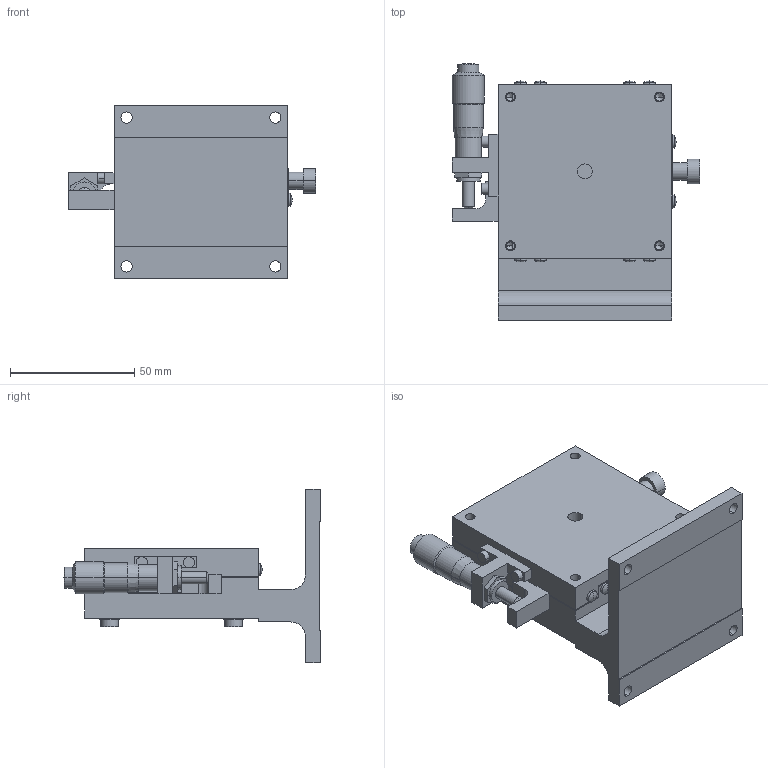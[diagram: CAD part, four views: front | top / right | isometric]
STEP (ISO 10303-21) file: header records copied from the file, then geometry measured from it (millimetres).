
FILE_DESCRIPTION (( 'STEP AP203' ), '1' );
FILE_NAME ('LZ-7047-SR1.STEP', '2011-08-10T06:07:37', ( '' ), ( '' ), 'SwSTEP 2.0', 'SolidWorks 2011', '' );
FILE_SCHEMA (( 'CONFIG_CONTROL_DESIGN' ));
Length unit declared in the file: millimetre
Products named in the file (3): LZ-7047-SR1; LZ-7047-SR1-2; LZ-7047-SR1-1
Assembly tree (2 placements, depth 2):
  LZ-7047-SR1
    LZ-7047-SR1-2
    LZ-7047-SR1-1
Bounding box: 99.8 x 103.5 x 70 mm (x, y, z)
Volume: 178705 mm3; surface area: 58351.8 mm2
Topology: 3 solids, 9 shells, 327 faces, 769 edges, 492 vertices
Faces by surface type: plane 138, cylinder 133, cone 34, sphere 18, bspline 2, torus 2
Entity records: 10160 total; most frequent: CARTESIAN_POINT 2033, DIRECTION 1739, ORIENTED_EDGE 1518, EDGE_CURVE 759, AXIS2_PLACEMENT_3D 662, VERTEX_POINT 492, LINE 415, VECTOR 415
